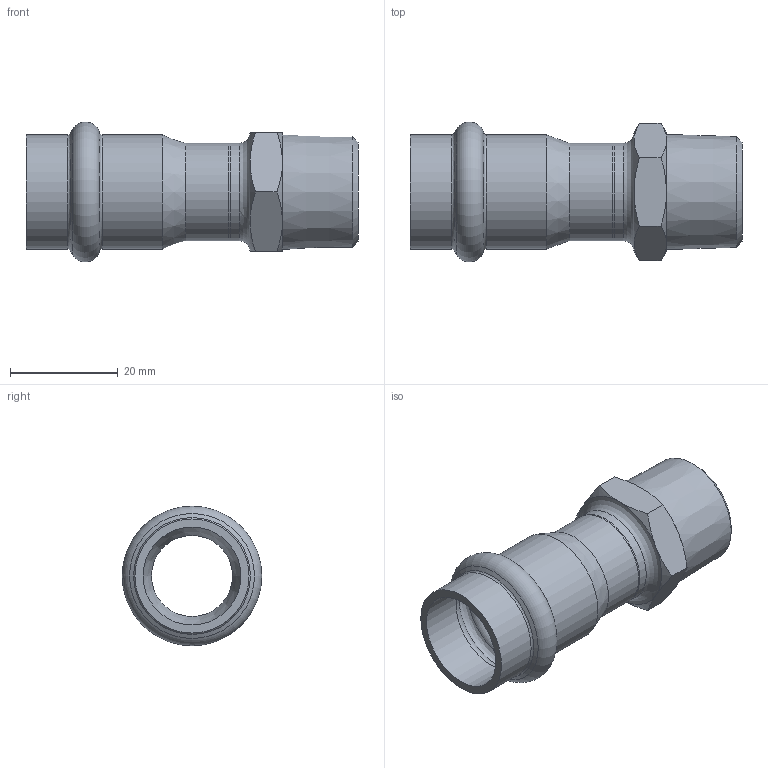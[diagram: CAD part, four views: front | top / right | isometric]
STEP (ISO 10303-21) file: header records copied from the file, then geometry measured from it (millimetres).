
FILE_DESCRIPTION((''),'2;1');
FILE_NAME('G:\Nirosan-Schmiedefeld\Technics\CAD\001 Serie 9.000\018\69243G1812H(2).stp','2018-08-28T08:52:25',('herberg'),(''),'Autodesk Inventor 2009','Autodesk Inventor 2009','');
FILE_SCHEMA(('AUTOMOTIVE_DESIGN { 1 0 10303 214 1 1 1 1 }'));
Length unit declared in the file: millimetre
Products named in the file (3): 69243G1812H(2); 69HM18P(1); AG1812(1)
Assembly tree (2 placements, depth 2):
  69243G1812H(2)
    69HM18P(1)
    AG1812(1)
Bounding box: 61.5 x 25.89 x 25.89 mm (x, y, z)
Volume: 7748.5 mm3; surface area: 8122.2 mm2
Topology: 2 solids, 2 shells, 44 faces, 91 edges, 52 vertices
Faces by surface type: cone 18, plane 11, cylinder 7, bspline 5, torus 3
Full cylindrical faces by diameter (mm): 15 x1, 18 x2, 18.15 x2, 21.15 x2
Entity records: 1289 total; most frequent: CARTESIAN_POINT 442, DIRECTION 168, ORIENTED_EDGE 134, AXIS2_PLACEMENT_3D 81, EDGE_LOOP 70, EDGE_CURVE 67, VERTEX_POINT 49, FACE_OUTER_BOUND 44
